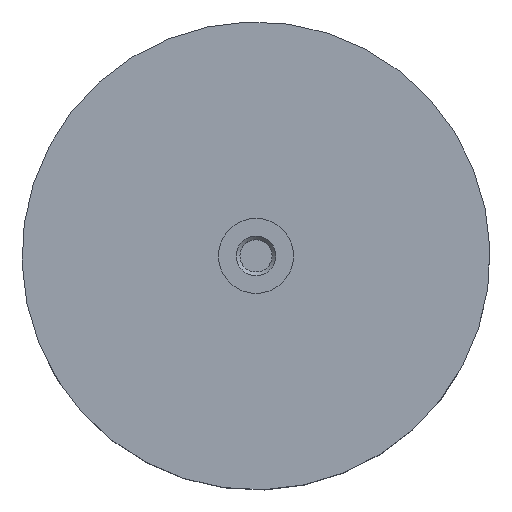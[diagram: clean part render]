
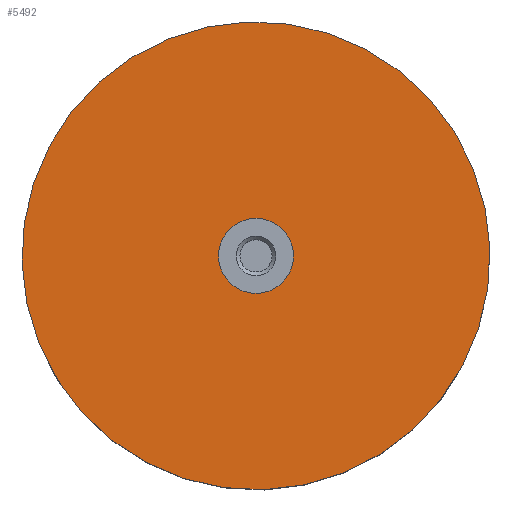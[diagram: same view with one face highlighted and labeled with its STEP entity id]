
A CAD part, top view. The second image highlights one B-rep face of the part: STEP entity #5492.
In plain terms, the highlighted planar face has unit normal (0, 0, 1).
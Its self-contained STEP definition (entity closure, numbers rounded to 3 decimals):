
#110=CARTESIAN_POINT('',(0.,3.848,11.396));
#111=VERTEX_POINT('',#110);
#112=CARTESIAN_POINT('',(0.,0.,11.396));
#113=DIRECTION('',(0.0,0.0,-1.0));
#114=DIRECTION('',(0.0,-1.0,0.0));
#115=AXIS2_PLACEMENT_3D('',#112,#113,#114);
#116=CIRCLE('',#115,3.848);
#117=EDGE_CURVE('',#111,#111,#116,.T.);
#5469=CARTESIAN_POINT('',(23.767,-3.336,11.396));
#5470=VERTEX_POINT('',#5469);
#5471=CARTESIAN_POINT('',(0.,0.0,11.396));
#5472=DIRECTION('',(0.0,0.0,1.0));
#5473=DIRECTION('',(-0.99,0.139,0.0));
#5474=AXIS2_PLACEMENT_3D('',#5471,#5472,#5473);
#5475=CIRCLE('',#5474,24.0);
#5476=EDGE_CURVE('',#5470,#5470,#5475,.F.);
#5481=CARTESIAN_POINT('',(0.,0.,11.396));
#5482=DIRECTION('',(0.0,0.0,-1.0));
#5483=DIRECTION('',(-1.0,0.0,0.0));
#5484=AXIS2_PLACEMENT_3D('',#5481,#5482,#5483);
#5485=PLANE('',#5484);
#5486=ORIENTED_EDGE('',*,*,#5476,.F.);
#5487=EDGE_LOOP('',(#5486));
#5488=FACE_OUTER_BOUND('',#5487,.T.);
#5489=ORIENTED_EDGE('',*,*,#117,.T.);
#5490=EDGE_LOOP('',(#5489));
#5491=FACE_BOUND('',#5490,.T.);
#5492=ADVANCED_FACE('',(#5488,#5491),#5485,.F.);
